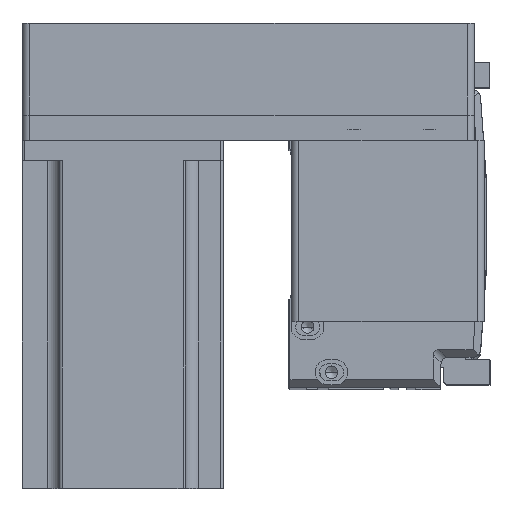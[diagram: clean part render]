
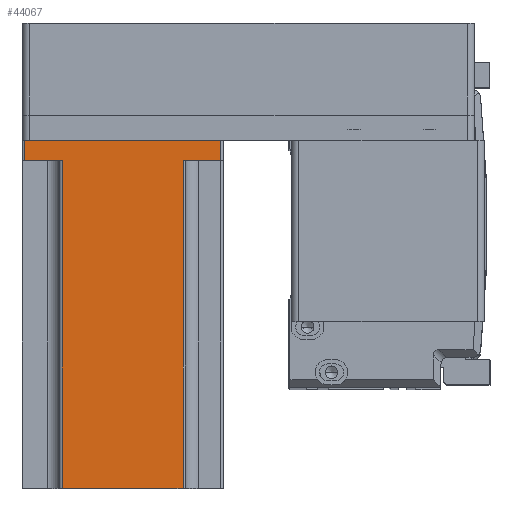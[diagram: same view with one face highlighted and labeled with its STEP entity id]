
A CAD part, top view. The second image highlights one B-rep face of the part: STEP entity #44067.
In plain terms, the highlighted planar face has unit normal (0, 0, 1) as drawn and (0, 1, 0) by its records, which use the part's own axes.
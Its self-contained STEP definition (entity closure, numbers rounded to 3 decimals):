
#640 = CARTESIAN_POINT ( 'NONE',  ( 24., 40., 138.3 ) ) ;
#688 = LINE ( 'NONE', #20315, #17983 ) ;
#799 = VERTEX_POINT ( 'NONE', #32728 ) ;
#1555 = CARTESIAN_POINT ( 'NONE',  ( 25., 40., 8. ) ) ;
#1860 = PLANE ( 'NONE',  #24099 ) ;
#2054 = CARTESIAN_POINT ( 'NONE',  ( -39., 40., 0. ) ) ;
#2183 = DIRECTION ( 'NONE',  ( 0., 0., -1. ) ) ;
#2265 = EDGE_CURVE ( 'NONE', #42183, #799, #21836, .T. ) ;
#3725 = CARTESIAN_POINT ( 'NONE',  ( 39., 40., 8. ) ) ;
#3849 = EDGE_CURVE ( 'NONE', #19040, #10543, #8776, .T. ) ;
#5058 = DIRECTION ( 'NONE',  ( -1., 0., 0. ) ) ;
#5507 = CARTESIAN_POINT ( 'NONE',  ( -39., 40., 138.3 ) ) ;
#7117 = DIRECTION ( 'NONE',  ( -1., 0., 0. ) ) ;
#8356 = EDGE_CURVE ( 'NONE', #32520, #799, #29963, .T. ) ;
#8776 = LINE ( 'NONE', #34790, #43448 ) ;
#9127 = CARTESIAN_POINT ( 'NONE',  ( 40., 40., 138.3 ) ) ;
#9398 = CARTESIAN_POINT ( 'NONE',  ( -25., 40., 8. ) ) ;
#9690 = ORIENTED_EDGE ( 'NONE', *, *, #19244, .T. ) ;
#10257 = EDGE_CURVE ( 'NONE', #42183, #39911, #43802, .T. ) ;
#10543 = VERTEX_POINT ( 'NONE', #2054 ) ;
#11399 = VECTOR ( 'NONE', #19225, 1000. ) ;
#12064 = VECTOR ( 'NONE', #2183, 1000. ) ;
#12250 = ORIENTED_EDGE ( 'NONE', *, *, #31622, .T. ) ;
#12469 = LINE ( 'NONE', #5507, #11399 ) ;
#12568 = DIRECTION ( 'NONE',  ( 1., 0., 0. ) ) ;
#12832 = EDGE_CURVE ( 'NONE', #10543, #23105, #12469, .T. ) ;
#12881 = ORIENTED_EDGE ( 'NONE', *, *, #40957, .T. ) ;
#13708 = VECTOR ( 'NONE', #5058, 1000. ) ;
#14558 = ORIENTED_EDGE ( 'NONE', *, *, #3849, .T. ) ;
#15630 = CARTESIAN_POINT ( 'NONE',  ( 39., 40., 0. ) ) ;
#15749 = ORIENTED_EDGE ( 'NONE', *, *, #10257, .F. ) ;
#17983 = VECTOR ( 'NONE', #27266, 1000. ) ;
#19040 = VERTEX_POINT ( 'NONE', #15630 ) ;
#19225 = DIRECTION ( 'NONE',  ( 0., 0., 1. ) ) ;
#19244 = EDGE_CURVE ( 'NONE', #34453, #39911, #688, .T. ) ;
#19849 = CARTESIAN_POINT ( 'NONE',  ( 24., 40., 138.3 ) ) ;
#20315 = CARTESIAN_POINT ( 'NONE',  ( -24., 40., 138.3 ) ) ;
#21603 = LINE ( 'NONE', #9398, #29705 ) ;
#21836 = LINE ( 'NONE', #640, #22908 ) ;
#22382 = LINE ( 'NONE', #36792, #12064 ) ;
#22908 = VECTOR ( 'NONE', #24855, 1000. ) ;
#23105 = VERTEX_POINT ( 'NONE', #32886 ) ;
#24099 = AXIS2_PLACEMENT_3D ( 'NONE', #9127, #33310, #12568 ) ;
#24855 = DIRECTION ( 'NONE',  ( 0., 0., -1. ) ) ;
#27266 = DIRECTION ( 'NONE',  ( 0., 0., 1. ) ) ;
#28566 = CARTESIAN_POINT ( 'NONE',  ( -24., 40., 138.3 ) ) ;
#28725 = FACE_OUTER_BOUND ( 'NONE', #40315, .T. ) ;
#29243 = CARTESIAN_POINT ( 'NONE',  ( -24., 40., 8. ) ) ;
#29705 = VECTOR ( 'NONE', #33597, 1000. ) ;
#29963 = LINE ( 'NONE', #1555, #13708 ) ;
#31622 = EDGE_CURVE ( 'NONE', #32520, #19040, #22382, .T. ) ;
#32520 = VERTEX_POINT ( 'NONE', #3725 ) ;
#32610 = ORIENTED_EDGE ( 'NONE', *, *, #12832, .T. ) ;
#32728 = CARTESIAN_POINT ( 'NONE',  ( 24., 40., 8. ) ) ;
#32886 = CARTESIAN_POINT ( 'NONE',  ( -39., 40., 8. ) ) ;
#33310 = DIRECTION ( 'NONE',  ( 0., -1., 0. ) ) ;
#33597 = DIRECTION ( 'NONE',  ( 1., 0., 0. ) ) ;
#34453 = VERTEX_POINT ( 'NONE', #29243 ) ;
#34545 = VECTOR ( 'NONE', #41895, 1000. ) ;
#34790 = CARTESIAN_POINT ( 'NONE',  ( 40., 40., 0. ) ) ;
#35579 = ORIENTED_EDGE ( 'NONE', *, *, #8356, .F. ) ;
#36792 = CARTESIAN_POINT ( 'NONE',  ( 39., 40., 138.3 ) ) ;
#39911 = VERTEX_POINT ( 'NONE', #28566 ) ;
#40315 = EDGE_LOOP ( 'NONE', ( #12881, #9690, #15749, #40982, #35579, #12250, #14558, #32610 ) ) ;
#40957 = EDGE_CURVE ( 'NONE', #23105, #34453, #21603, .T. ) ;
#40982 = ORIENTED_EDGE ( 'NONE', *, *, #2265, .T. ) ;
#41748 = CARTESIAN_POINT ( 'NONE',  ( 40., 40., 138.3 ) ) ;
#41895 = DIRECTION ( 'NONE',  ( -1., 0., 0. ) ) ;
#42183 = VERTEX_POINT ( 'NONE', #19849 ) ;
#43448 = VECTOR ( 'NONE', #7117, 1000. ) ;
#43802 = LINE ( 'NONE', #41748, #34545 ) ;
#44067 = ADVANCED_FACE ( 'NONE', ( #28725 ), #1860, .F. ) ;
